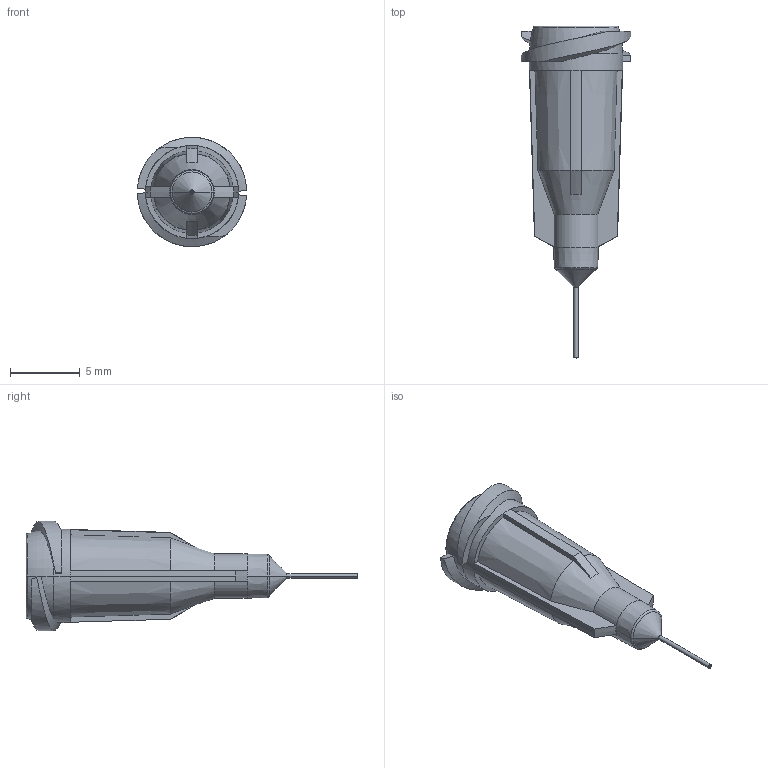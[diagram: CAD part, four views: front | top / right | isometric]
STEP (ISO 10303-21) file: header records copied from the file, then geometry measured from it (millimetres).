
FILE_DESCRIPTION (( 'STEP AP214' ), '1' );
FILE_NAME ('NORDSONEFD-7018423 TIP 30GA GP 006 X 25 LV.STEP', '2018-12-29T08:10:51', ( '' ), ( '' ), 'SwSTEP 2.0', 'SolidWorks 2018', '' );
FILE_SCHEMA (( 'AUTOMOTIVE_DESIGN' ));
Length unit declared in the file: inch
Products named in the file (1): NORDSONEFD-7018423 TIP 30GA GP 006 X 25 LV
Bounding box: 7.82 x 23.72 x 7.82 mm (x, y, z)
Volume: 265.7 mm3; surface area: 538.5 mm2
Topology: 1 solids, 1 shells, 97 faces, 226 edges, 134 vertices
Faces by surface type: plane 25, torus 22, cone 22, cylinder 16, bspline 12
Entity records: 3290 total; most frequent: CARTESIAN_POINT 992, DIRECTION 454, ORIENTED_EDGE 452, EDGE_CURVE 226, AXIS2_PLACEMENT_3D 198, VERTEX_POINT 134, CIRCLE 112, EDGE_LOOP 102
